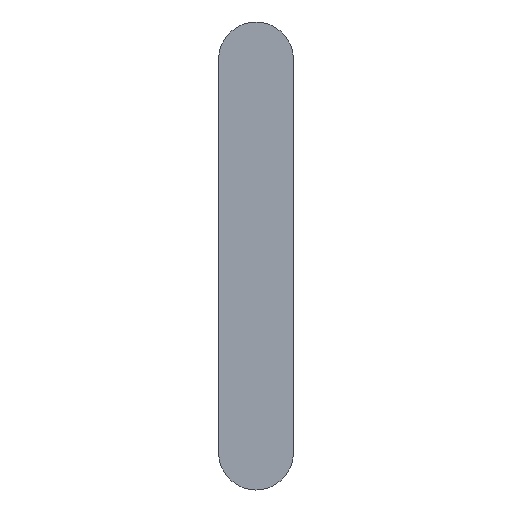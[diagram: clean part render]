
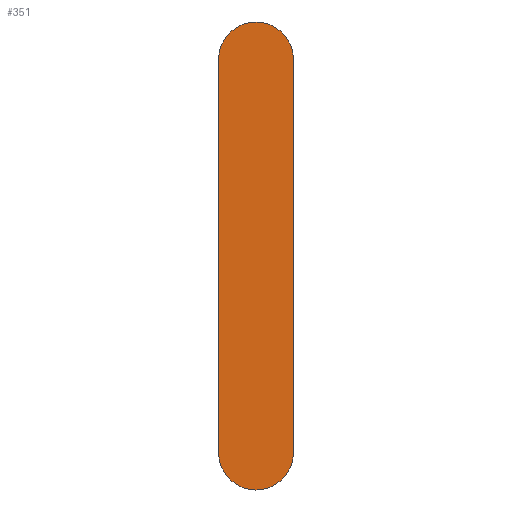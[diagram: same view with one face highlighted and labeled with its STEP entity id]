
A CAD part, front view. The second image highlights one B-rep face of the part: STEP entity #351.
In plain terms, the highlighted planar face has unit normal (0, -1, 0).
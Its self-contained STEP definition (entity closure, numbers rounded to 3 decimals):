
#77 = DIRECTION ( 'NONE',  ( 0., 0., -1. ) ) ;
#151 = DIRECTION ( 'NONE',  ( 0., 0., -1. ) ) ;
#239 = CIRCLE ( 'NONE', #2214, 8. ) ;
#279 = EDGE_LOOP ( 'NONE', ( #713, #1107, #2304, #1782 ) ) ;
#330 = CIRCLE ( 'NONE', #1918, 8. ) ;
#351 = ADVANCED_FACE ( 'NONE', ( #1086 ), #882, .T. ) ;
#449 = LINE ( 'NONE', #2070, #2345 ) ;
#537 = CARTESIAN_POINT ( 'NONE',  ( 42., 0., -8. ) ) ;
#632 = CARTESIAN_POINT ( 'NONE',  ( 42., 0., 8. ) ) ;
#637 = EDGE_CURVE ( 'NONE', #1205, #1678, #239, .T. ) ;
#704 = VECTOR ( 'NONE', #1080, 1000. ) ;
#713 = ORIENTED_EDGE ( 'NONE', *, *, #637, .F. ) ;
#882 = PLANE ( 'NONE',  #2295 ) ;
#893 = CARTESIAN_POINT ( 'NONE',  ( 42., 0., 8. ) ) ;
#955 = DIRECTION ( 'NONE',  ( 0., 1., 0. ) ) ;
#985 = EDGE_CURVE ( 'NONE', #2075, #1039, #330, .T. ) ;
#1028 = EDGE_CURVE ( 'NONE', #1678, #2075, #1194, .T. ) ;
#1039 = VERTEX_POINT ( 'NONE', #537 ) ;
#1080 = DIRECTION ( 'NONE',  ( 1., 0., 0. ) ) ;
#1086 = FACE_OUTER_BOUND ( 'NONE', #279, .T. ) ;
#1107 = ORIENTED_EDGE ( 'NONE', *, *, #1628, .F. ) ;
#1170 = DIRECTION ( 'NONE',  ( 0., 1., 0. ) ) ;
#1194 = LINE ( 'NONE', #893, #704 ) ;
#1205 = VERTEX_POINT ( 'NONE', #2223 ) ;
#1250 = DIRECTION ( 'NONE',  ( 0., -1., 0. ) ) ;
#1501 = DIRECTION ( 'NONE',  ( -1., 0., 0. ) ) ;
#1628 = EDGE_CURVE ( 'NONE', #1039, #1205, #449, .T. ) ;
#1678 = VERTEX_POINT ( 'NONE', #2079 ) ;
#1782 = ORIENTED_EDGE ( 'NONE', *, *, #1028, .F. ) ;
#1918 = AXIS2_PLACEMENT_3D ( 'NONE', #2062, #955, #2243 ) ;
#2062 = CARTESIAN_POINT ( 'NONE',  ( 42., 0., 0. ) ) ;
#2070 = CARTESIAN_POINT ( 'NONE',  ( -42., 0., -8. ) ) ;
#2075 = VERTEX_POINT ( 'NONE', #632 ) ;
#2079 = CARTESIAN_POINT ( 'NONE',  ( -42., 0., 8. ) ) ;
#2214 = AXIS2_PLACEMENT_3D ( 'NONE', #2271, #1170, #77 ) ;
#2223 = CARTESIAN_POINT ( 'NONE',  ( -42., 0., -8. ) ) ;
#2243 = DIRECTION ( 'NONE',  ( 0., 0., -1. ) ) ;
#2271 = CARTESIAN_POINT ( 'NONE',  ( -42., 0., 0. ) ) ;
#2295 = AXIS2_PLACEMENT_3D ( 'NONE', #2362, #1250, #151 ) ;
#2304 = ORIENTED_EDGE ( 'NONE', *, *, #985, .F. ) ;
#2345 = VECTOR ( 'NONE', #1501, 1000. ) ;
#2362 = CARTESIAN_POINT ( 'NONE',  ( -42., 0., 0. ) ) ;
